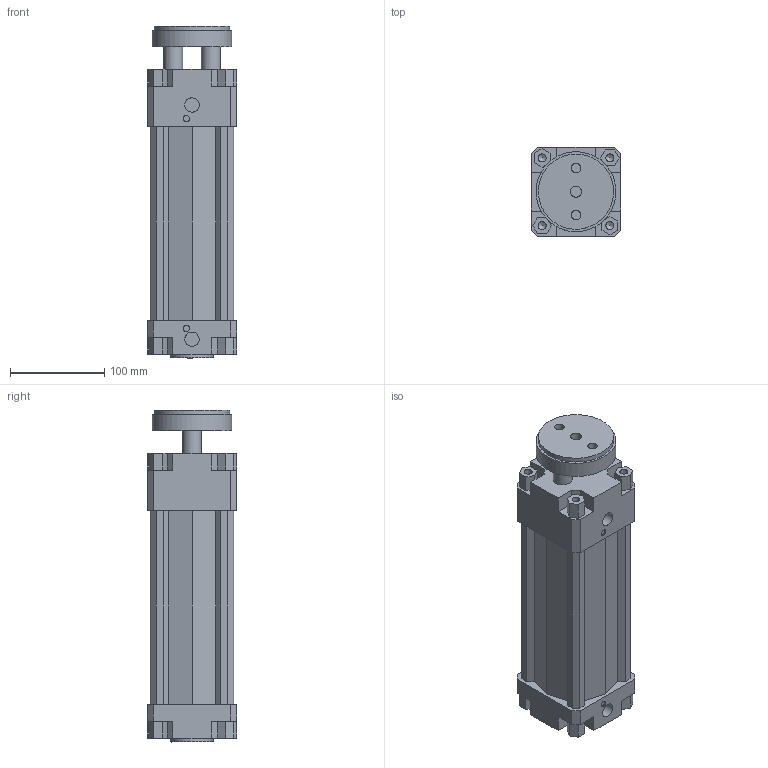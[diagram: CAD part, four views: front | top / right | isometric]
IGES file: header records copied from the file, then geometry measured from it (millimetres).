
Global section: file name: 134#_080_0150_01; native system: Autodesk Inventor 2014; preprocessor: unknown; author: A. Manieri; date: 20161006.165202; units: millimetre
Bounding box: 95 x 95 x 353 mm (x, y, z)
Volume: 1688781.4 mm3; surface area: 286798.9 mm2
Topology: 2 solids, 2 shells, 180 faces, 491 edges, 335 vertices
Faces by surface type: bspline 180
